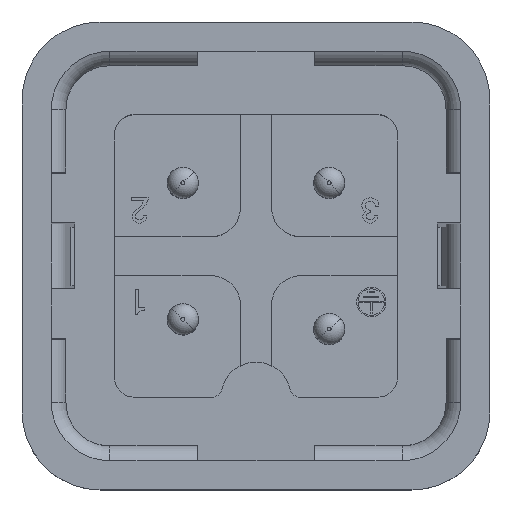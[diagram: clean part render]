
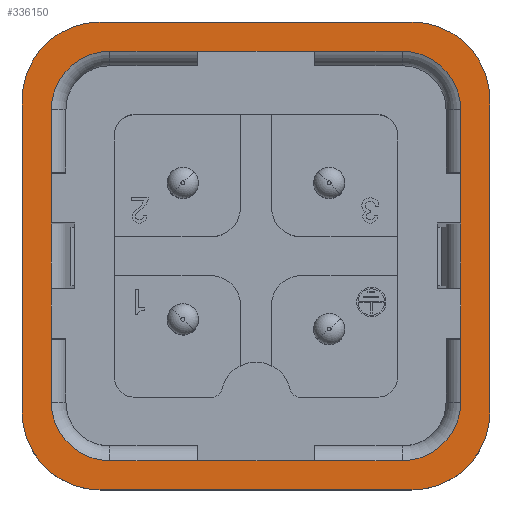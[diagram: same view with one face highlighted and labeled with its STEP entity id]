
A CAD part, top view. The second image highlights one B-rep face of the part: STEP entity #336150.
In plain terms, the highlighted planar face has unit normal (0, 0, 1) as drawn and (0, 0, -1) by its records, which use the part's own axes.
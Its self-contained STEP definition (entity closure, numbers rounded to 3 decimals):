
#60=CARTESIAN_POINT('',(59.188,46.605,-44.3));
#70=DIRECTION('',(0.,1.,0.));
#80=VECTOR('',#70,1.);
#90=LINE('',#60,#80);
#100=CARTESIAN_POINT('',(59.188,48.317,-44.3));
#110=VERTEX_POINT('',#100);
#120=CARTESIAN_POINT('',(59.188,50.944,-44.3));
#130=VERTEX_POINT('',#120);
#140=EDGE_CURVE('',#110,#130,#90,.T.);
#18290=CARTESIAN_POINT('',(51.688,57.165,-44.3));
#18300=VERTEX_POINT('',#18290);
#25740=CARTESIAN_POINT('',(45.688,36.165,-44.3));
#25750=VERTEX_POINT('',#25740);
#25780=CARTESIAN_POINT('',(45.599,36.165,-44.3));
#25790=DIRECTION('',(1.,0.,0.));
#25800=VECTOR('',#25790,1.);
#25810=LINE('',#25780,#25800);
#25820=CARTESIAN_POINT('',(51.688,36.165,-44.3));
#25830=VERTEX_POINT('',#25820);
#25840=EDGE_CURVE('',#25750,#25830,#25810,.T.);
#37090=CARTESIAN_POINT('',(59.188,42.386,-44.3));
#37100=VERTEX_POINT('',#37090);
#37150=CARTESIAN_POINT('',(59.188,46.605,-44.3));
#37160=DIRECTION('',(0.,1.,0.));
#37170=VECTOR('',#37160,1.);
#37180=LINE('',#37150,#37170);
#37190=CARTESIAN_POINT('',(59.188,45.013,-44.3));
#37200=VERTEX_POINT('',#37190);
#37210=EDGE_CURVE('',#37100,#37200,#37180,.T.);
#41980=CARTESIAN_POINT('',(45.599,57.165,-44.3));
#41990=DIRECTION('',(-1.,0.,0.));
#42000=VECTOR('',#41990,1.);
#42010=LINE('',#41980,#42000);
#42020=CARTESIAN_POINT('',(45.688,57.165,-44.3));
#42030=VERTEX_POINT('',#42020);
#42040=EDGE_CURVE('',#18300,#42030,#42010,.T.);
#334340=CARTESIAN_POINT('',(38.471,41.202,-44.3));
#334350=DIRECTION('',(0.,0.,-1.));
#334360=DIRECTION('',(-1.,0.,0.));
#334370=AXIS2_PLACEMENT_3D('',#334340,#334350,#334360);
#334380=PLANE('',#334370);
#334390=CARTESIAN_POINT('',(47.219,58.665,-44.3));
#334400=DIRECTION('',(-1.,0.,0.));
#334410=VECTOR('',#334400,1.);
#334420=LINE('',#334390,#334410);
#334430=CARTESIAN_POINT('',(56.688,58.665,-44.3));
#334440=VERTEX_POINT('',#334430);
#334450=CARTESIAN_POINT('',(40.688,58.665,-44.3));
#334460=VERTEX_POINT('',#334450);
#334470=EDGE_CURVE('',#334440,#334460,#334420,.T.);
#334480=ORIENTED_EDGE('',*,*,#334470,.F.);
#334490=CARTESIAN_POINT('',(40.688,54.665,-44.3));
#334500=DIRECTION('',(0.,0.,-1.));
#334510=DIRECTION('',(-1.,0.,0.));
#334520=AXIS2_PLACEMENT_3D('',#334490,#334500,#334510);
#334530=CIRCLE('',#334520,4.);
#334540=CARTESIAN_POINT('',(36.688,54.665,-44.3));
#334550=VERTEX_POINT('',#334540);
#334560=EDGE_CURVE('',#334550,#334460,#334530,.T.);
#334570=ORIENTED_EDGE('',*,*,#334560,.T.);
#334580=CARTESIAN_POINT('',(36.688,56.025,-44.3));
#334590=DIRECTION('',(0.,-1.,0.));
#334600=VECTOR('',#334590,1.);
#334610=LINE('',#334580,#334600);
#334620=CARTESIAN_POINT('',(36.688,38.665,-44.3));
#334630=VERTEX_POINT('',#334620);
#334640=EDGE_CURVE('',#334550,#334630,#334610,.T.);
#334650=ORIENTED_EDGE('',*,*,#334640,.F.);
#334660=CARTESIAN_POINT('',(40.688,38.665,-44.3));
#334670=DIRECTION('',(0.,0.,-1.));
#334680=DIRECTION('',(-1.,0.,0.));
#334690=AXIS2_PLACEMENT_3D('',#334660,#334670,#334680);
#334700=CIRCLE('',#334690,4.);
#334710=CARTESIAN_POINT('',(40.688,34.665,-44.3));
#334720=VERTEX_POINT('',#334710);
#334730=EDGE_CURVE('',#334720,#334630,#334700,.T.);
#334740=ORIENTED_EDGE('',*,*,#334730,.T.);
#334750=CARTESIAN_POINT('',(47.219,34.665,-44.3));
#334760=DIRECTION('',(1.,0.,-0.));
#334770=VECTOR('',#334760,1.);
#334780=LINE('',#334750,#334770);
#334790=CARTESIAN_POINT('',(56.688,34.665,-44.3));
#334800=VERTEX_POINT('',#334790);
#334810=EDGE_CURVE('',#334720,#334800,#334780,.T.);
#334820=ORIENTED_EDGE('',*,*,#334810,.F.);
#334830=CARTESIAN_POINT('',(56.688,38.665,-44.3));
#334840=DIRECTION('',(0.,0.,-1.));
#334850=DIRECTION('',(-1.,0.,0.));
#334860=AXIS2_PLACEMENT_3D('',#334830,#334840,#334850);
#334870=CIRCLE('',#334860,4.);
#334880=CARTESIAN_POINT('',(60.688,38.665,-44.3));
#334890=VERTEX_POINT('',#334880);
#334900=EDGE_CURVE('',#334890,#334800,#334870,.T.);
#334910=ORIENTED_EDGE('',*,*,#334900,.T.);
#334920=CARTESIAN_POINT('',(60.688,56.025,-44.3));
#334930=DIRECTION('',(0.,1.,0.));
#334940=VECTOR('',#334930,1.);
#334950=LINE('',#334920,#334940);
#334960=CARTESIAN_POINT('',(60.688,54.665,-44.3));
#334970=VERTEX_POINT('',#334960);
#334980=EDGE_CURVE('',#334890,#334970,#334950,.T.);
#334990=ORIENTED_EDGE('',*,*,#334980,.F.);
#335000=CARTESIAN_POINT('',(56.688,54.665,-44.3));
#335010=DIRECTION('',(0.,0.,-1.));
#335020=DIRECTION('',(-1.,0.,0.));
#335030=AXIS2_PLACEMENT_3D('',#335000,#335010,#335020);
#335040=CIRCLE('',#335030,4.);
#335050=EDGE_CURVE('',#334440,#334970,#335040,.T.);
#335060=ORIENTED_EDGE('',*,*,#335050,.T.);
#335070=EDGE_LOOP('',(#335060,#334990,#334910,#334820,#334740,#334650,
#334570,#334480));
#335080=FACE_OUTER_BOUND('',#335070,.T.);
#335090=ORIENTED_EDGE('',*,*,#42040,.T.);
#335100=CARTESIAN_POINT('',(56.188,57.165,-44.3));
#335110=DIRECTION('',(-1.,0.,0.));
#335120=VECTOR('',#335110,1.);
#335130=LINE('',#335100,#335120);
#335140=CARTESIAN_POINT('',(56.188,57.165,-44.3));
#335150=VERTEX_POINT('',#335140);
#335160=EDGE_CURVE('',#335150,#18300,#335130,.T.);
#335170=ORIENTED_EDGE('',*,*,#335160,.T.);
#335180=CARTESIAN_POINT('',(56.188,54.165,-44.3));
#335190=DIRECTION('',(0.,0.,-1.));
#335200=DIRECTION('',(-1.,0.,0.));
#335210=AXIS2_PLACEMENT_3D('',#335180,#335190,#335200);
#335220=CIRCLE('',#335210,3.);
#335230=CARTESIAN_POINT('',(59.188,54.165,-44.3));
#335240=VERTEX_POINT('',#335230);
#335250=EDGE_CURVE('',#335150,#335240,#335220,.T.);
#335260=ORIENTED_EDGE('',*,*,#335250,.F.);
#335270=CARTESIAN_POINT('',(59.188,39.165,-44.3));
#335280=DIRECTION('',(0.,1.,0.));
#335290=VECTOR('',#335280,1.);
#335300=LINE('',#335270,#335290);
#335310=EDGE_CURVE('',#130,#335240,#335300,.T.);
#335320=ORIENTED_EDGE('',*,*,#335310,.T.);
#335330=ORIENTED_EDGE('',*,*,#140,.T.);
#335340=EDGE_CURVE('',#37200,#110,#335300,.T.);
#335350=ORIENTED_EDGE('',*,*,#335340,.T.);
#335360=ORIENTED_EDGE('',*,*,#37210,.T.);
#335370=CARTESIAN_POINT('',(59.188,39.165,-44.3));
#335380=VERTEX_POINT('',#335370);
#335390=EDGE_CURVE('',#335380,#37100,#335300,.T.);
#335400=ORIENTED_EDGE('',*,*,#335390,.T.);
#335410=CARTESIAN_POINT('',(56.188,39.165,-44.3));
#335420=DIRECTION('',(0.,0.,-1.));
#335430=DIRECTION('',(-1.,0.,0.));
#335440=AXIS2_PLACEMENT_3D('',#335410,#335420,#335430);
#335450=CIRCLE('',#335440,3.);
#335460=CARTESIAN_POINT('',(56.188,36.165,-44.3));
#335470=VERTEX_POINT('',#335460);
#335480=EDGE_CURVE('',#335380,#335470,#335450,.T.);
#335490=ORIENTED_EDGE('',*,*,#335480,.F.);
#335500=CARTESIAN_POINT('',(41.188,36.165,-44.3));
#335510=DIRECTION('',(1.,0.,0.));
#335520=VECTOR('',#335510,1.);
#335530=LINE('',#335500,#335520);
#335540=EDGE_CURVE('',#25830,#335470,#335530,.T.);
#335550=ORIENTED_EDGE('',*,*,#335540,.T.);
#335560=ORIENTED_EDGE('',*,*,#25840,.T.);
#335570=CARTESIAN_POINT('',(41.188,36.165,-44.3));
#335580=VERTEX_POINT('',#335570);
#335590=EDGE_CURVE('',#335580,#25750,#335530,.T.);
#335600=ORIENTED_EDGE('',*,*,#335590,.T.);
#335610=CARTESIAN_POINT('',(41.188,39.165,-44.3));
#335620=DIRECTION('',(0.,0.,-1.));
#335630=DIRECTION('',(-1.,0.,0.));
#335640=AXIS2_PLACEMENT_3D('',#335610,#335620,#335630);
#335650=CIRCLE('',#335640,3.);
#335660=CARTESIAN_POINT('',(38.188,39.165,-44.3));
#335670=VERTEX_POINT('',#335660);
#335680=EDGE_CURVE('',#335580,#335670,#335650,.T.);
#335690=ORIENTED_EDGE('',*,*,#335680,.F.);
#335700=CARTESIAN_POINT('',(38.188,54.165,-44.3));
#335710=DIRECTION('',(0.,-1.,0.));
#335720=VECTOR('',#335710,1.);
#335730=LINE('',#335700,#335720);
#335740=CARTESIAN_POINT('',(38.188,42.386,-44.3));
#335750=VERTEX_POINT('',#335740);
#335760=EDGE_CURVE('',#335750,#335670,#335730,.T.);
#335770=ORIENTED_EDGE('',*,*,#335760,.T.);
#335780=CARTESIAN_POINT('',(38.188,46.605,-44.3));
#335790=DIRECTION('',(0.,-1.,0.));
#335800=VECTOR('',#335790,1.);
#335810=LINE('',#335780,#335800);
#335820=CARTESIAN_POINT('',(38.188,45.013,-44.3));
#335830=VERTEX_POINT('',#335820);
#335840=EDGE_CURVE('',#335830,#335750,#335810,.T.);
#335850=ORIENTED_EDGE('',*,*,#335840,.T.);
#335860=CARTESIAN_POINT('',(38.188,48.317,-44.3));
#335870=VERTEX_POINT('',#335860);
#335880=EDGE_CURVE('',#335870,#335830,#335730,.T.);
#335890=ORIENTED_EDGE('',*,*,#335880,.T.);
#335900=CARTESIAN_POINT('',(38.188,46.605,-44.3));
#335910=DIRECTION('',(0.,-1.,0.));
#335920=VECTOR('',#335910,1.);
#335930=LINE('',#335900,#335920);
#335940=CARTESIAN_POINT('',(38.188,50.944,-44.3));
#335950=VERTEX_POINT('',#335940);
#335960=EDGE_CURVE('',#335950,#335870,#335930,.T.);
#335970=ORIENTED_EDGE('',*,*,#335960,.T.);
#335980=CARTESIAN_POINT('',(38.188,54.165,-44.3));
#335990=VERTEX_POINT('',#335980);
#336000=EDGE_CURVE('',#335990,#335950,#335730,.T.);
#336010=ORIENTED_EDGE('',*,*,#336000,.T.);
#336020=CARTESIAN_POINT('',(41.188,54.165,-44.3));
#336030=DIRECTION('',(0.,0.,-1.));
#336040=DIRECTION('',(-1.,0.,0.));
#336050=AXIS2_PLACEMENT_3D('',#336020,#336030,#336040);
#336060=CIRCLE('',#336050,3.);
#336070=CARTESIAN_POINT('',(41.188,57.165,-44.3));
#336080=VERTEX_POINT('',#336070);
#336090=EDGE_CURVE('',#335990,#336080,#336060,.T.);
#336100=ORIENTED_EDGE('',*,*,#336090,.F.);
#336110=EDGE_CURVE('',#42030,#336080,#335130,.T.);
#336120=ORIENTED_EDGE('',*,*,#336110,.T.);
#336130=EDGE_LOOP('',(#336120,#336100,#336010,#335970,#335890,#335850,
#335770,#335690,#335600,#335560,#335550,#335490,#335400,#335360,#335350,
#335330,#335320,#335260,#335170,#335090));
#336140=FACE_BOUND('',#336130,.T.);
#336150=ADVANCED_FACE('',(#335080,#336140),#334380,.T.);
